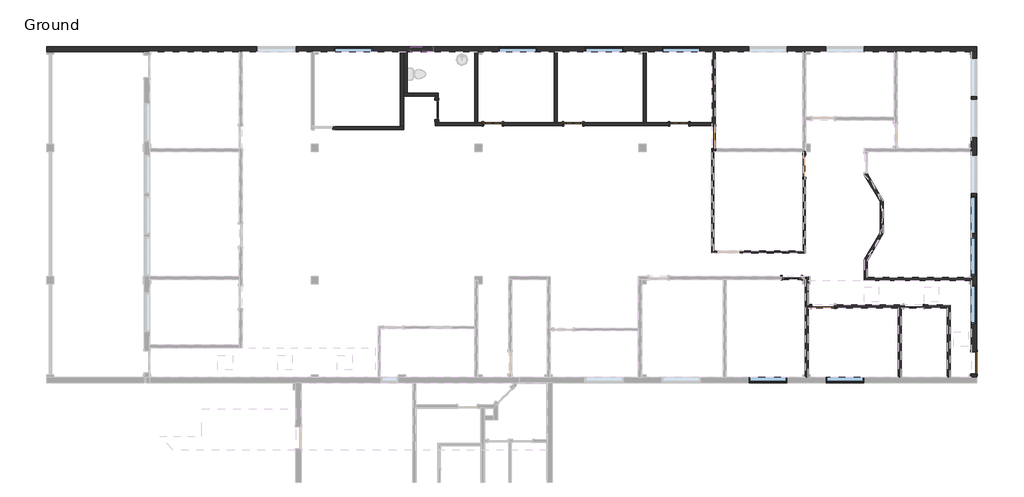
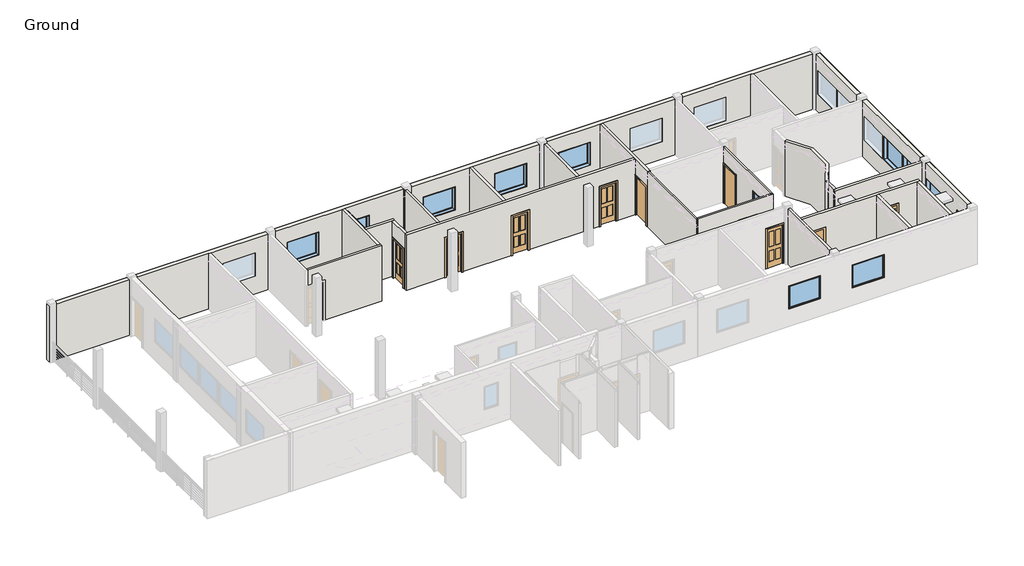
# One storey, part 3 of 4: 22 walls, 12 windows, 10 doors.
"""IFC4 building model written with IfcOpenShell, lengths in millimetres."""

from ifc_helpers import new_model, si_unit, point, frame, frame_2d, origin, origin_with_axes, place, context, project, spatial, polyline, circle_curve, trimmed, segment, composite_curve, outline, extrude, faceted_brep, transform, mapped, element, save
from components import door_43f271b1, door_c0366a91, door_dce19e30, door_bfc1a142, door_dc1c1a0d, door_238e255b, fixed_3_x_3_w3_42a4cb5f, window_74e4fc61, window_a0bf6c86

model = new_model("IFC4")

# Units and contexts
model_context = context("Model", 3, world=origin())
ifc_project = project(units=[si_unit("LENGTHUNIT", "METRE", prefix="MILLI")], contexts=[model_context])

# Site, building, storey
site = spatial("IfcSite", under=ifc_project)
building = spatial("IfcBuilding", under=site)
storey = spatial("IfcBuildingStorey", under=building, Name="Ground", Elevation=0.0)

# Doors
placement = place(None, origin())
door_shape = door_43f271b1(model_context)
element("IfcDoor", 1, ObjectType="Single-Flush : 36\" x 80\" - D1", at=placement, inside=storey, context=model_context, shape_type="MappedRepresentation", body=[
    mapped(door_shape, transform((-16750.902824, 18800.73529, 0.0), x_axis=(0.0, -0.9999999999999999, 0.0), y_axis=(0.9999999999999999, 0.0, 0.0), z_axis=(0.0, 0.0, 1.0))),
])
element("IfcDoor", 2, ObjectType="Single-Flush : 36\" x 80\" - D1", at=placement, inside=storey, context=model_context, shape_type="MappedRepresentation", body=[
    mapped(door_shape, transform((-12274.152824, 11880.82279, 0.0), x_axis=(-0.9999999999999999, 0.0, 0.0), y_axis=(0.0, -0.9999999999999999, 0.0), z_axis=(0.0, 0.0, 1.0))),
])
door_2_shape = door_c0366a91(model_context)
element("IfcDoor", 3, ObjectType="Single-Flush : 36\" x 80\" - D1", at=placement, inside=storey, context=model_context, shape_type="MappedRepresentation", body=[
    mapped(door_2_shape, transform((-13044.090324, 17627.57279, 0.0), x_axis=(0.0, 1.0, 0.0), y_axis=(-1.0, 0.0, 0.0), z_axis=(0.0, 0.0, 1.0))),
])
door_3_shape = door_dce19e30(model_context)
element("IfcDoor", 4, ObjectType="Single-Flush : 36\" x 80\" - D1", at=placement, inside=storey, context=model_context, shape_type="MappedRepresentation", body=[
    mapped(door_3_shape, transform((-6095.602824, 9569.42279, 0.0), x_axis=(0.0, -0.9999999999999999, 0.0), y_axis=(0.9999999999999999, 0.0, 0.0), z_axis=(0.0, 0.0, 1.0))),
])
door_4_shape = door_bfc1a142(model_context)
element("IfcDoor", 5, ObjectType="Single-Glass 3 : 30\" x 80\" - D3", at=placement, inside=storey, context=model_context, shape_type="MappedRepresentation", body=[
    mapped(door_4_shape, transform((-25786.952824, 19354.77279, 0.0), x_axis=(-1.0, 0.0, 0.0), y_axis=(0.0, -1.0, 0.0), z_axis=(0.0, 0.0, 1.0))),
])
element("IfcDoor", 6, ObjectType="Single-Glass 3 : 30\" x 80\" - D3", at=placement, inside=storey, context=model_context, shape_type="MappedRepresentation", body=[
    mapped(door_4_shape, transform((-13556.852824, 13055.57279, 0.0), x_axis=(1.0, 0.0, 0.0), y_axis=(0.0, 1.0, 0.0), z_axis=(0.0, 0.0, 1.0))),
])
element("IfcDoor", 7, ObjectType="Single-Glass 3 : 30\" x 80\" - D3", at=placement, inside=storey, context=model_context, shape_type="MappedRepresentation", body=[
    mapped(door_4_shape, transform((-22497.652824, 19354.77279, 0.0), x_axis=(-1.0, 0.0, 0.0), y_axis=(0.0, -1.0, 0.0), z_axis=(0.0, 0.0, 1.0))),
])
door_5_shape = door_dc1c1a0d(model_context)
element("IfcDoor", 8, ObjectType="Single-Glass 3 : 30\" x 80\" - D3", at=placement, inside=storey, context=model_context, shape_type="MappedRepresentation", body=[
    mapped(door_5_shape, transform((-8567.340324, 11880.82279, 0.0), x_axis=(-0.9999999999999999, 0.0, 0.0), y_axis=(0.0, -0.9999999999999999, 0.0), z_axis=(0.0, 0.0, 1.0))),
])
element("IfcDoor", 9, ObjectType="Single-Glass 3 : 30\" x 80\" - D3", at=placement, inside=storey, context=model_context, shape_type="MappedRepresentation", body=[
    mapped(door_5_shape, transform((-18159.809074, 19354.77279, 0.0), x_axis=(1.0, 0.0, 0.0), y_axis=(0.0, 1.0, 0.0), z_axis=(0.0, 0.0, 1.0))),
])
door_6_shape = door_238e255b(model_context)
element("IfcDoor", 10, ObjectType="Single-Glass 3 : 32\" x 80\" - D2", at=placement, inside=storey, context=model_context, shape_type="MappedRepresentation", body=[
    mapped(door_6_shape, transform((-28079.302824, 19932.62279, 0.0), x_axis=(0.0, -1.0, 0.0), y_axis=(1.0, 0.0, 0.0), z_axis=(0.0, 0.0, 1.0))),
])

# Walls
element("IfcWall", 11, ObjectType="Generic - 6\"", at=placement, inside=storey, context=model_context, shape_type="SweptSolid", body=[
    extrude(outline(polyline([(-29439.790324, 20623.18529), (-29439.790324, 22307.52279), (-29287.390324, 22307.52279), (-29287.390324, 20623.18529), (-29439.790324, 20623.18529)])), origin_with_axes(), (0.0, 0.0, 1.0), 2743.2),
])
element("IfcWall", 12, ObjectType="Generic - 8\" Masonry existing", at=placement, inside=storey, context=model_context, shape_type="Brep", body=[
    faceted_brep([(-44043.202824, 22307.52279, 0.0), (-40037.940324, 22307.52279, 0.0), (-39818.865324, 22307.52279, 0.0), (-36166.027824, 22307.52279, 0.0), (-36042.202824, 22307.52279, 0.0), (-33222.802824, 22307.52279, 0.0), (-33098.977824, 22307.52279, 0.0), (-29563.615324, 22307.52279, 0.0), (-29439.790324, 22307.52279, 0.0), (-29287.390324, 22307.52279, 0.0), (-26517.202824, 22307.52279, 0.0), (-26393.377824, 22307.52279, 0.0), (-23264.415324, 22307.52279, 0.0), (-23140.590324, 22307.52279, 0.0), (-19630.627824, 22307.52279, 0.0), (-19506.802824, 22307.52279, 0.0), (-16812.815324, 22307.52279, 0.0), (-16688.990324, 22307.52279, 0.0), (-13106.002824, 22307.52279, 0.0), (-12982.177824, 22307.52279, 0.0), (-9372.202824, 22307.52279, 0.0), (-9248.377824, 22307.52279, 0.0), (-6205.140324, 22307.52279, 0.0), (-5986.065324, 22307.52279, 0.0), (-5986.065324, 22307.52279, 2895.6), (-5998.765324, 22307.52279, 2895.6), (-6205.140324, 22307.52279, 2895.6), (-9248.377824, 22307.52279, 2895.6), (-9372.202824, 22307.52279, 2895.6), (-12982.177824, 22307.52279, 2895.6), (-13106.002824, 22307.52279, 2895.6), (-16688.990324, 22307.52279, 2895.6), (-16812.815324, 22307.52279, 2895.6), (-19506.802824, 22307.52279, 2895.6), (-19630.627824, 22307.52279, 2895.6), (-23140.590324, 22307.52279, 2895.6), (-23264.415324, 22307.52279, 2895.6), (-26393.377824, 22307.52279, 2895.6), (-26517.202824, 22307.52279, 2895.6), (-29439.790324, 22307.52279, 2895.6), (-29563.615324, 22307.52279, 2895.6), (-33098.977824, 22307.52279, 2895.6), (-33222.802824, 22307.52279, 2895.6), (-36042.202824, 22307.52279, 2895.6), (-36166.027824, 22307.52279, 2895.6), (-44043.202824, 22307.52279, 2895.6), (-28220.590324, 22307.52279, 2133.6), (-28220.590324, 22307.52279, 1219.2), (-29134.990324, 22307.52279, 1219.2), (-29134.990324, 22307.52279, 2133.6), (-17297.002824, 22307.52279, 2133.6), (-17297.002824, 22307.52279, 914.4), (-18871.802824, 22307.52279, 914.4), (-18871.802824, 22307.52279, 2133.6), (-20446.602824, 22307.52279, 2133.6), (-20446.602824, 22307.52279, 914.4), (-22021.402824, 22307.52279, 914.4), (-22021.402824, 22307.52279, 2133.6), (-10591.402824, 22307.52279, 2133.6), (-10591.402824, 22307.52279, 914.4), (-12166.202824, 22307.52279, 914.4), (-12166.202824, 22307.52279, 2133.6), (-13741.002824, 22307.52279, 2133.6), (-13741.002824, 22307.52279, 914.4), (-15315.802824, 22307.52279, 914.4), (-15315.802824, 22307.52279, 2133.6), (-23977.202824, 22307.52279, 2133.6), (-23977.202824, 22307.52279, 914.4), (-25552.002824, 22307.52279, 914.4), (-25552.002824, 22307.52279, 2133.6), (-30708.202824, 22307.52279, 2133.6), (-30708.202824, 22307.52279, 914.4), (-32283.002824, 22307.52279, 914.4), (-32283.002824, 22307.52279, 2133.6), (-33857.802824, 22307.52279, 2133.6), (-33857.802824, 22307.52279, 914.4), (-35432.602824, 22307.52279, 914.4), (-35432.602824, 22307.52279, 2133.6), (-44043.202824, 22526.59779, 0.0), (-44043.202824, 22526.59779, 2895.6), (-5998.765324, 22526.59779, 2895.6), (-5986.065324, 22526.59779, 2895.6), (-5986.065324, 22526.59779, 0.0), (-28220.590324, 22526.59779, 2133.6), (-29134.990324, 22526.59779, 2133.6), (-29134.990324, 22526.59779, 1219.2), (-28220.590324, 22526.59779, 1219.2), (-17297.002824, 22526.59779, 2133.6), (-18871.802824, 22526.59779, 2133.6), (-18871.802824, 22526.59779, 914.4), (-17297.002824, 22526.59779, 914.4), (-20446.602824, 22526.59779, 2133.6), (-22021.402824, 22526.59779, 2133.6), (-22021.402824, 22526.59779, 914.4), (-20446.602824, 22526.59779, 914.4), (-10591.402824, 22526.59779, 2133.6), (-12166.202824, 22526.59779, 2133.6), (-12166.202824, 22526.59779, 914.4), (-10591.402824, 22526.59779, 914.4), (-13741.002824, 22526.59779, 2133.6), (-15315.802824, 22526.59779, 2133.6), (-15315.802824, 22526.59779, 914.4), (-13741.002824, 22526.59779, 914.4), (-23977.202824, 22526.59779, 2133.6), (-25552.002824, 22526.59779, 2133.6), (-25552.002824, 22526.59779, 914.4), (-23977.202824, 22526.59779, 914.4), (-30708.202824, 22526.59779, 2133.6), (-32283.002824, 22526.59779, 2133.6), (-32283.002824, 22526.59779, 914.4), (-30708.202824, 22526.59779, 914.4), (-33857.802824, 22526.59779, 2133.6), (-35432.602824, 22526.59779, 2133.6), (-35432.602824, 22526.59779, 914.4), (-33857.802824, 22526.59779, 914.4), (-44043.202824, 22513.89779, 2895.6), (-5986.065324, 22513.89779, 2895.6), (-5998.765324, 22513.89779, 2895.6)], [[[0, 1, 2, 3, 4, 5, 6, 7, 8, 9, 10, 11, 12, 13, 14, 15, 16, 17, 18, 19, 20, 21, 22, 23, 24, 25, 26, 27, 28, 29, 30, 31, 32, 33, 34, 35, 36, 37, 38, 39, 40, 41, 42, 43, 44, 45], [46, 47, 48, 49], [50, 51, 52, 53], [54, 55, 56, 57], [58, 59, 60, 61], [62, 63, 64, 65], [66, 67, 68, 69], [70, 71, 72, 73], [74, 75, 76, 77]], [[78, 79, 80, 81, 82], [83, 84, 85, 86], [87, 88, 89, 90], [91, 92, 93, 94], [95, 96, 97, 98], [99, 100, 101, 102], [103, 104, 105, 106], [107, 108, 109, 110], [111, 112, 113, 114]], [[23, 22, 21, 20, 19, 18, 17, 16, 15, 14, 13, 12, 11, 10, 9, 8, 7, 6, 5, 4, 3, 2, 1, 0, 78, 82]], [[0, 45, 115, 79, 78]], [[24, 23, 82, 81, 116]], [[25, 24, 116, 117]], [[80, 79, 115, 117]], [[116, 81, 80, 117]], [[45, 44, 43, 42, 41, 40, 39, 38, 37, 36, 35, 34, 33, 32, 31, 30, 29, 28, 27, 26, 25, 117, 115]], [[47, 46, 83, 86]], [[48, 47, 86, 85]], [[49, 48, 85, 84]], [[46, 49, 84, 83]], [[51, 50, 87, 90]], [[52, 51, 90, 89]], [[53, 52, 89, 88]], [[50, 53, 88, 87]], [[55, 54, 91, 94]], [[56, 55, 94, 93]], [[57, 56, 93, 92]], [[54, 57, 92, 91]], [[59, 58, 95, 98]], [[60, 59, 98, 97]], [[61, 60, 97, 96]], [[58, 61, 96, 95]], [[63, 62, 99, 102]], [[64, 63, 102, 101]], [[65, 64, 101, 100]], [[62, 65, 100, 99]], [[67, 66, 103, 106]], [[68, 67, 106, 105]], [[69, 68, 105, 104]], [[66, 69, 104, 103]], [[71, 70, 107, 110]], [[72, 71, 110, 109]], [[73, 72, 109, 108]], [[70, 73, 108, 107]], [[75, 74, 111, 114]], [[76, 75, 114, 113]], [[77, 76, 113, 112]], [[74, 77, 112, 111]]]),
])
element("IfcWall", 13, ObjectType="Generic - 8\" Masonry existing", at=placement, inside=storey, context=model_context, shape_type="Brep", body=[
    faceted_brep([(-5986.065324, 8972.52279, 0.0), (-5986.065324, 9112.22279, 0.0), (-5986.065324, 9112.22279, 2032.0), (-5986.065324, 10026.62279, 2032.0), (-5986.065324, 10026.62279, 0.0), (-5986.065324, 22307.52279, 0.0), (-5986.065324, 22307.52279, 2895.6), (-5986.065324, 8972.52279, 2895.6), (-5986.065324, 11169.62279, 2133.6), (-5986.065324, 12744.42279, 2133.6), (-5986.065324, 12744.42279, 914.4), (-5986.065324, 11169.62279, 914.4), (-5986.065324, 13150.82279, 2133.6), (-5986.065324, 14725.62279, 2133.6), (-5986.065324, 14725.62279, 914.4), (-5986.065324, 13150.82279, 914.4), (-5986.065324, 14827.22279, 2133.6), (-5986.065324, 16402.02279, 2133.6), (-5986.065324, 16402.02279, 914.4), (-5986.065324, 14827.22279, 914.4), (-5986.065324, 16503.62279, 2133.6), (-5986.065324, 18078.42279, 2133.6), (-5986.065324, 18078.42279, 914.4), (-5986.065324, 16503.62279, 914.4), (-5986.065324, 18789.62279, 2133.6), (-5986.065324, 20364.42279, 2133.6), (-5986.065324, 20364.42279, 914.4), (-5986.065324, 18789.62279, 914.4), (-5986.065324, 20466.02279, 2133.6), (-5986.065324, 22040.82279, 2133.6), (-5986.065324, 22040.82279, 914.4), (-5986.065324, 20466.02279, 914.4), (-6205.140324, 9112.22279, 2032.0), (-6205.140324, 9112.22279, 0.0), (-6205.140324, 8972.52279, 0.0), (-6205.140324, 8972.52279, 2895.6), (-6205.140324, 12949.21029, 2895.6), (-6205.140324, 13073.03529, 2895.6), (-6205.140324, 18219.71029, 2895.6), (-6205.140324, 18343.53529, 2895.6), (-6205.140324, 22307.52279, 2895.6), (-6205.140324, 22307.52279, 0.0), (-6205.140324, 18343.53529, 0.0), (-6205.140324, 18219.71029, 0.0), (-6205.140324, 13073.03529, 0.0), (-6205.140324, 12949.21029, 0.0), (-6205.140324, 10026.62279, 0.0), (-6205.140324, 10026.62279, 2032.0), (-6205.140324, 11169.62279, 2133.6), (-6205.140324, 11169.62279, 914.4), (-6205.140324, 12744.42279, 914.4), (-6205.140324, 12744.42279, 2133.6), (-6205.140324, 13150.82279, 2133.6), (-6205.140324, 13150.82279, 914.4), (-6205.140324, 14725.62279, 914.4), (-6205.140324, 14725.62279, 2133.6), (-6205.140324, 14827.22279, 2133.6), (-6205.140324, 14827.22279, 914.4), (-6205.140324, 16402.02279, 914.4), (-6205.140324, 16402.02279, 2133.6), (-6205.140324, 16503.62279, 2133.6), (-6205.140324, 16503.62279, 914.4), (-6205.140324, 18078.42279, 914.4), (-6205.140324, 18078.42279, 2133.6), (-6205.140324, 18789.62279, 2133.6), (-6205.140324, 18789.62279, 914.4), (-6205.140324, 20364.42279, 914.4), (-6205.140324, 20364.42279, 2133.6), (-6205.140324, 20466.02279, 2133.6), (-6205.140324, 20466.02279, 914.4), (-6205.140324, 22040.82279, 914.4), (-6205.140324, 22040.82279, 2133.6), (-5998.765324, 22307.52279, 2895.6), (-5998.765324, 8972.52279, 2895.6)], [[[0, 1, 2, 3, 4, 5, 6, 7], [8, 9, 10, 11], [12, 13, 14, 15], [16, 17, 18, 19], [20, 21, 22, 23], [24, 25, 26, 27], [28, 29, 30, 31]], [[32, 33, 34, 35, 36, 37, 38, 39, 40, 41, 42, 43, 44, 45, 46, 47], [48, 49, 50, 51], [52, 53, 54, 55], [56, 57, 58, 59], [60, 61, 62, 63], [64, 65, 66, 67], [68, 69, 70, 71]], [[34, 33, 1, 0]], [[46, 45, 44, 43, 42, 41, 5, 4]], [[6, 5, 41, 40, 72]], [[0, 7, 73, 35, 34]], [[7, 6, 72, 73]], [[72, 40, 39, 38, 37, 36, 35, 73]], [[2, 1, 33, 32]], [[3, 2, 32, 47]], [[4, 3, 47, 46]], [[49, 48, 8, 11]], [[50, 49, 11, 10]], [[51, 50, 10, 9]], [[48, 51, 9, 8]], [[53, 52, 12, 15]], [[54, 53, 15, 14]], [[55, 54, 14, 13]], [[52, 55, 13, 12]], [[57, 56, 16, 19]], [[58, 57, 19, 18]], [[59, 58, 18, 17]], [[56, 59, 17, 16]], [[61, 60, 20, 23]], [[62, 61, 23, 22]], [[63, 62, 22, 21]], [[60, 63, 21, 20]], [[65, 64, 24, 27]], [[66, 65, 27, 26]], [[67, 66, 26, 25]], [[64, 67, 25, 24]], [[69, 68, 28, 31]], [[70, 69, 31, 30]], [[71, 70, 30, 29]], [[68, 71, 29, 28]]]),
])
element("IfcWall", 14, ObjectType="Interior - 3 1/8\" Partition (1-hr)", at=placement, inside=storey, context=model_context, shape_type="Brep", body=[
    faceted_brep([(-16820.752824, 18219.71029, 0.0), (-16820.752824, 14071.57279, 0.0), (-16820.752824, 14071.57279, 2895.6), (-16820.752824, 18219.71029, 2895.6), (-16741.377824, 18219.71029, 0.0), (-16741.377824, 18219.71029, 2895.6), (-16741.377824, 14150.94779, 2895.6), (-16741.377824, 14071.57279, 2895.6), (-16741.377824, 14071.57279, 0.0), (-16741.377824, 14150.94779, 0.0), (-16812.815324, 18219.71029, 0.0), (-16812.815324, 18219.71029, 2895.6)], [[[0, 1, 2, 3]], [[4, 5, 6, 7, 8, 9]], [[1, 0, 10, 4, 9, 8]], [[3, 2, 7, 6, 5, 11]], [[2, 1, 8, 7]], [[0, 3, 11, 5, 4, 10]]]),
])
element("IfcWall", 15, ObjectType="Interior - 3 1/8\" Partition (1-hr)", at=placement, inside=storey, context=model_context, shape_type="Brep", body=[
    faceted_brep([(-16741.377824, 14071.57279, 0.0), (-16598.502824, 14071.57279, 0.0), (-16598.502824, 14071.57279, 2032.0), (-15684.102824, 14071.57279, 2032.0), (-15684.102824, 14071.57279, 0.0), (-13004.402824, 14071.57279, 0.0), (-13004.402824, 14071.57279, 2895.6), (-16741.377824, 14071.57279, 2895.6), (-14720.490324, 14071.57279, 2133.6), (-13806.090324, 14071.57279, 2133.6), (-13806.090324, 14071.57279, 914.4), (-14720.490324, 14071.57279, 914.4), (-16598.502824, 14150.94779, 2032.0), (-16598.502824, 14150.94779, 0.0), (-16741.377824, 14150.94779, 0.0), (-16741.377824, 14150.94779, 2895.6), (-13083.777824, 14150.94779, 2895.6), (-13004.402824, 14150.94779, 2895.6), (-13004.402824, 14150.94779, 0.0), (-13083.777824, 14150.94779, 0.0), (-15684.102824, 14150.94779, 0.0), (-15684.102824, 14150.94779, 2032.0), (-14720.490324, 14150.94779, 2133.6), (-14720.490324, 14150.94779, 914.4), (-13806.090324, 14150.94779, 914.4), (-13806.090324, 14150.94779, 2133.6)], [[[0, 1, 2, 3, 4, 5, 6, 7], [8, 9, 10, 11]], [[12, 13, 14, 15, 16, 17, 18, 19, 20, 21], [22, 23, 24, 25]], [[14, 13, 1, 0]], [[20, 19, 18, 5, 4]], [[7, 6, 17, 16, 15]], [[6, 5, 18, 17]], [[0, 7, 15, 14]], [[2, 1, 13, 12]], [[3, 2, 12, 21]], [[4, 3, 21, 20]], [[23, 22, 8, 11]], [[24, 23, 11, 10]], [[25, 24, 10, 9]], [[22, 25, 9, 8]]]),
])
element("IfcWall", 16, ObjectType="Interior - 3 1/8\" Partition (1-hr)", at=placement, inside=storey, context=model_context, shape_type="SweptSolid", body=[
    extrude(outline(polyline([(18219.71029, 0.0), (18084.77279, 0.0), (18084.77279, 2032.0), (17170.37279, 2032.0), (17170.37279, 0.0), (14150.94779, 0.0), (14150.94779, 2895.6), (18219.71029, 2895.6), (18219.71029, 0.0)]), holes=[polyline([(14760.54779, 2133.6), (14760.54779, 914.4), (15674.94779, 914.4), (15674.94779, 2133.6), (14760.54779, 2133.6)])]), frame((-13083.777824, 0.0, 0.0), z_axis=(1.0, 0.0, 0.0), x_axis=(0.0, 1.0, 0.0)), (0.0, 0.0, 1.0), 79.375),
])
element("IfcWall", 17, ObjectType="Interior - 5 1/2\" Partition (1-hr)", at=placement, inside=storey, context=model_context, shape_type="Brep", body=[
    faceted_brep([(-6205.140324, 13073.03529, 0.0), (-10467.577824, 13073.03529, 0.0), (-10591.402824, 13073.03529, 0.0), (-10591.402824, 13073.03529, 2895.6), (-10467.577824, 13073.03529, 2895.6), (-6205.140324, 13073.03529, 2895.6), (-6205.140324, 12949.21029, 0.0), (-6205.140324, 12949.21029, 2895.6), (-10591.402824, 12949.21029, 2895.6), (-10591.402824, 12949.21029, 0.0)], [[[0, 1, 2, 3, 4, 5]], [[6, 7, 8, 9]], [[2, 1, 0, 6, 9]], [[5, 4, 3, 8, 7]], [[3, 2, 9, 8]], [[0, 5, 7, 6]]]),
])
element("IfcWall", 18, ObjectType="Interior - 5 1/2\" Partition (1-hr)", at=placement, inside=storey, context=model_context, shape_type="Brep", body=[
    faceted_brep([(-16688.990324, 18219.71029, 0.0), (-16688.990324, 18343.53529, 0.0), (-16688.990324, 18343.53529, 2032.0), (-16688.990324, 19257.93529, 2032.0), (-16688.990324, 19257.93529, 0.0), (-16688.990324, 22307.52279, 0.0), (-16688.990324, 22307.52279, 2895.6), (-16688.990324, 18343.53529, 2895.6), (-16688.990324, 18219.71029, 2895.6), (-16812.815324, 18343.53529, 2032.0), (-16812.815324, 18343.53529, 0.0), (-16812.815324, 18219.71029, 0.0), (-16812.815324, 18219.71029, 2895.6), (-16812.815324, 19292.86029, 2895.6), (-16812.815324, 19416.68529, 2895.6), (-16812.815324, 22307.52279, 2895.6), (-16812.815324, 22307.52279, 0.0), (-16812.815324, 19416.68529, 0.0), (-16812.815324, 19292.86029, 0.0), (-16812.815324, 19257.93529, 0.0), (-16812.815324, 19257.93529, 2032.0), (-16741.377824, 18219.71029, 0.0), (-16741.377824, 18219.71029, 2895.6)], [[[0, 1, 2, 3, 4, 5, 6, 7, 8]], [[9, 10, 11, 12, 13, 14, 15, 16, 17, 18, 19, 20]], [[11, 10, 1, 0, 21]], [[19, 18, 17, 16, 5, 4]], [[8, 7, 6, 15, 14, 13, 12, 22]], [[0, 8, 22, 12, 11, 21]], [[6, 5, 16, 15]], [[2, 1, 10, 9]], [[3, 2, 9, 20]], [[4, 3, 20, 19]]]),
])
element("IfcWall", 19, ObjectType="Interior - 5 1/2\" Partition (1-hr)", at=placement, inside=storey, context=model_context, shape_type="SweptSolid", body=[
    extrude(outline(composite_curve([segment(polyline([(-10467.577824, 13753.2813276), (-10591.402824, 13806.060194)]), True, "CONTINUOUS"), segment(trimmed(circle_curve(frame_2d((-12218.244142, 15538.42279)), 2376.4875), [point((-10591.402824, 13806.060194))], [point((-10591.402824, 17270.785386))], True, "CARTESIAN"), True, "CONTINUOUS"), segment(polyline([(-10591.402824, 17270.785386), (-10467.577824, 17323.5642525)]), True, "CONTINUOUS"), segment(trimmed(circle_curve(frame_2d((-12218.244142, 15538.42279)), 2500.3125), [point((-10467.577824, 17323.5642525))], [point((-10467.577824, 13753.2813276))], False, "CARTESIAN"), True, "CONTINUOUS")], self_intersect=False)), origin_with_axes(), (0.0, 0.0, 1.0), 2895.6),
])
element("IfcWall", 20, ObjectType="Interior - 5 1/2\" Partition (1-hr)", at=placement, inside=storey, context=model_context, shape_type="SweptSolid", body=[
    extrude(outline(polyline([(-10591.402824, 13073.03529), (-10591.402824, 13806.060194), (-10467.577824, 13753.2813276), (-10467.577824, 13073.03529), (-10591.402824, 13073.03529)])), origin_with_axes(), (0.0, 0.0, 1.0), 2895.6),
])
element("IfcWall", 21, ObjectType="Interior - 5 1/2\" Partition (1-hr)", at=placement, inside=storey, context=model_context, shape_type="Brep", body=[
    faceted_brep([(-12891.690324, 8972.52279, 0.0), (-12891.690324, 11818.91029, 0.0), (-12891.690324, 11942.73529, 0.0), (-12891.690324, 13117.48529, 0.0), (-12891.690324, 13117.48529, 2895.6), (-12891.690324, 11942.73529, 2895.6), (-12891.690324, 11818.91029, 2895.6), (-12891.690324, 8972.52279, 2895.6), (-13015.515324, 8972.52279, 0.0), (-13015.515324, 8972.52279, 2895.6), (-13015.515324, 12993.66029, 2895.6), (-13015.515324, 13117.48529, 2895.6), (-13015.515324, 13117.48529, 0.0), (-13015.515324, 12993.66029, 0.0)], [[[0, 1, 2, 3, 4, 5, 6, 7]], [[8, 9, 10, 11, 12, 13]], [[3, 2, 1, 0, 8, 13, 12]], [[7, 6, 5, 4, 11, 10, 9]], [[4, 3, 12, 11]], [[0, 7, 9, 8]]]),
])
element("IfcWall", 22, ObjectType="Interior - 5 1/2\" Partition (1-hr)", at=placement, inside=storey, context=model_context, shape_type="Brep", body=[
    faceted_brep([(-29439.790324, 19118.23529, 2895.6), (-33098.977824, 19118.23529, 2895.6), (-33098.977824, 19118.23529, 2032.0), (-32336.8538075, 19118.23529, 2032.0), (-32336.8538075, 19118.23529, 0.0), (-29439.790324, 19118.23529, 0.0), (-33098.977824, 19242.06029, 2895.6), (-29563.615324, 19242.06029, 2895.6), (-29439.790324, 19242.06029, 2895.6), (-29439.790324, 19242.06029, 0.0), (-29563.615324, 19242.06029, 0.0), (-32336.8538075, 19242.06029, 0.0), (-32336.8538075, 19242.06029, 2032.0), (-33098.977824, 19242.06029, 2032.0)], [[[0, 1, 2, 3, 4, 5]], [[6, 7, 8, 9, 10, 11, 12, 13]], [[9, 5, 4, 11, 10]], [[1, 0, 8, 7, 6]], [[0, 5, 9, 8]], [[1, 6, 13, 2]], [[12, 3, 2, 13]], [[3, 12, 11, 4]]]),
])
element("IfcWall", 23, ObjectType="Interior - 5 1/2\" Partition (1-hr)", at=placement, inside=storey, context=model_context, shape_type="Brep", body=[
    faceted_brep([(-29439.790324, 19242.06029, 0.0), (-29439.790324, 20499.36029, 0.0), (-29439.790324, 20623.18529, 0.0), (-29439.790324, 22307.52279, 0.0), (-29439.790324, 22307.52279, 2895.6), (-29439.790324, 20623.18529, 2895.6), (-29439.790324, 20499.36029, 2895.6), (-29439.790324, 19242.06029, 2895.6), (-29563.615324, 19242.06029, 0.0), (-29563.615324, 19242.06029, 2895.6), (-29563.615324, 22307.52279, 2895.6), (-29563.615324, 22307.52279, 0.0)], [[[0, 1, 2, 3, 4, 5, 6, 7]], [[8, 9, 10, 11]], [[3, 2, 1, 0, 8, 11]], [[7, 6, 5, 4, 10, 9]], [[4, 3, 11, 10]], [[0, 7, 9, 8]]]),
])
element("IfcWall", 24, ObjectType="Interior - 5 1/2\" Partition (1-hr)", at=placement, inside=storey, context=model_context, shape_type="SweptSolid", body=[
    extrude(outline(polyline([(-26517.202824, 19416.68529), (-26517.202824, 22307.52279), (-26393.377824, 22307.52279), (-26393.377824, 19416.68529), (-26517.202824, 19416.68529)])), origin_with_axes(), (0.0, 0.0, 1.0), 2895.6),
])
element("IfcWall", 25, ObjectType="Interior - 5 1/2\" Partition (1-hr)", at=placement, inside=storey, context=model_context, shape_type="SweptSolid", body=[
    extrude(outline(polyline([(-23140.590324, 22307.52279), (-23140.590324, 19416.68529), (-23264.415324, 19416.68529), (-23264.415324, 22307.52279), (-23140.590324, 22307.52279)])), origin_with_axes(), (0.0, 0.0, 1.0), 2895.6),
])
element("IfcWall", 26, ObjectType="Interior - 5 1/2\" Partition (1-hr)", at=placement, inside=storey, context=model_context, shape_type="Brep", body=[
    faceted_brep([(-8948.2163075, 11942.73529, 2032.0), (-8948.2163075, 11942.73529, 0.0), (-11816.952824, 11942.73529, 0.0), (-11816.952824, 11942.73529, 2032.0), (-12731.352824, 11942.73529, 2032.0), (-12731.352824, 11942.73529, 0.0), (-12891.690324, 11942.73529, 0.0), (-12891.690324, 11942.73529, 2895.6), (-7071.915324, 11942.73529, 2895.6), (-7071.915324, 11942.73529, 0.0), (-8186.2163075, 11942.73529, 0.0), (-8186.2163075, 11942.73529, 2032.0), (-11816.952824, 11818.91029, 0.0), (-9207.102824, 11818.91029, 0.0), (-9083.277824, 11818.91029, 0.0), (-8948.2163075, 11818.91029, 0.0), (-8948.2163075, 11818.91029, 2032.0), (-8186.2163075, 11818.91029, 2032.0), (-8186.2163075, 11818.91029, 0.0), (-7195.740324, 11818.91029, 0.0), (-7071.915324, 11818.91029, 0.0), (-7071.915324, 11818.91029, 2895.6), (-7195.740324, 11818.91029, 2895.6), (-9083.277824, 11818.91029, 2895.6), (-9207.102824, 11818.91029, 2895.6), (-12891.690324, 11818.91029, 2895.6), (-12891.690324, 11818.91029, 0.0), (-12731.352824, 11818.91029, 0.0), (-12731.352824, 11818.91029, 2032.0), (-11816.952824, 11818.91029, 2032.0)], [[[0, 1, 2, 3, 4, 5, 6, 7, 8, 9, 10, 11]], [[12, 13, 14, 15, 16, 17, 18, 19, 20, 21, 22, 23, 24, 25, 26, 27, 28, 29]], [[6, 5, 27, 26]], [[2, 1, 15, 14, 13, 12]], [[10, 9, 20, 19, 18]], [[8, 7, 25, 24, 23, 22, 21]], [[9, 8, 21, 20]], [[7, 6, 26, 25]], [[28, 27, 5, 4]], [[29, 28, 4, 3]], [[12, 29, 3, 2]], [[16, 15, 1, 0]], [[17, 16, 0, 11]], [[18, 17, 11, 10]]]),
])
element("IfcWall", 27, ObjectType="Interior - 5 1/2\" Partition (1-hr)", at=placement, inside=storey, context=model_context, shape_type="SweptSolid", body=[
    extrude(outline(polyline([(-19630.627824, 19416.68529), (-19630.627824, 22307.52279), (-19506.802824, 22307.52279), (-19506.802824, 19416.68529), (-19630.627824, 19416.68529)])), origin_with_axes(), (0.0, 0.0, 1.0), 2895.6),
])
element("IfcWall", 28, ObjectType="Interior - 5 1/2\" Partition (1-hr)", at=placement, inside=storey, context=model_context, shape_type="Brep", body=[
    faceted_brep([(-29439.790324, 20499.36029, 0.0), (-28141.215324, 20499.36029, 0.0), (-28017.390324, 20499.36029, 0.0), (-28017.390324, 20499.36029, 2895.6), (-28141.215324, 20499.36029, 2895.6), (-29439.790324, 20499.36029, 2895.6), (-29439.790324, 20623.18529, 0.0), (-29439.790324, 20623.18529, 2743.2), (-29439.790324, 20623.18529, 2895.6), (-28017.390324, 20623.18529, 2895.6), (-28017.390324, 20623.18529, 0.0), (-29287.390324, 20623.18529, 0.0)], [[[0, 1, 2, 3, 4, 5]], [[6, 7, 8, 9, 10, 11]], [[2, 1, 0, 6, 11, 10]], [[5, 4, 3, 9, 8]], [[3, 2, 10, 9]], [[0, 5, 8, 7, 6]]]),
])
element("IfcWall", 29, ObjectType="Interior - 5 1/2\" Partition (1-hr)", at=placement, inside=storey, context=model_context, shape_type="SweptSolid", body=[
    extrude(outline(polyline([(19416.68529, 2895.6), (20499.36029, 2895.6), (20499.36029, 0.0), (20339.1468066, 0.0), (20339.1468066, 2032.0), (19526.3468066, 2032.0), (19526.3468066, 0.0), (19416.68529, 0.0), (19416.68529, 2895.6)])), frame((-28141.215324, 0.0, 0.0), z_axis=(1.0, 0.0, 0.0), x_axis=(0.0, 1.0, 0.0)), (0.0, 0.0, 1.0), 123.825),
])
element("IfcWall", 30, ObjectType="Interior - 5 1/2\" Partition (1-hr)", at=placement, inside=storey, context=model_context, shape_type="Brep", body=[
    faceted_brep([(-17778.9330906, 19292.86029, 2032.0), (-17778.9330906, 19292.86029, 0.0), (-16812.815324, 19292.86029, 0.0), (-16812.815324, 19292.86029, 2895.6), (-28141.215324, 19292.86029, 2895.6), (-28141.215324, 19292.86029, 0.0), (-26167.8288075, 19292.86029, 0.0), (-26167.8288075, 19292.86029, 2032.0), (-25405.8288075, 19292.86029, 2032.0), (-25405.8288075, 19292.86029, 0.0), (-22878.5288075, 19292.86029, 0.0), (-22878.5288075, 19292.86029, 2032.0), (-22116.5288075, 19292.86029, 2032.0), (-22116.5288075, 19292.86029, 0.0), (-18540.9330906, 19292.86029, 0.0), (-18540.9330906, 19292.86029, 2032.0), (-16812.815324, 19416.68529, 0.0), (-17778.9330906, 19416.68529, 0.0), (-17778.9330906, 19416.68529, 2032.0), (-18540.9330906, 19416.68529, 2032.0), (-18540.9330906, 19416.68529, 0.0), (-19506.802824, 19416.68529, 0.0), (-19630.627824, 19416.68529, 0.0), (-22116.5288075, 19416.68529, 0.0), (-22116.5288075, 19416.68529, 2032.0), (-22878.5288075, 19416.68529, 2032.0), (-22878.5288075, 19416.68529, 0.0), (-23140.590324, 19416.68529, 0.0), (-23264.415324, 19416.68529, 0.0), (-25405.8288075, 19416.68529, 0.0), (-25405.8288075, 19416.68529, 2032.0), (-26167.8288075, 19416.68529, 2032.0), (-26167.8288075, 19416.68529, 0.0), (-26393.377824, 19416.68529, 0.0), (-26517.202824, 19416.68529, 0.0), (-28017.390324, 19416.68529, 0.0), (-28141.215324, 19416.68529, 0.0), (-28141.215324, 19416.68529, 2895.6), (-28017.390324, 19416.68529, 2895.6), (-26517.202824, 19416.68529, 2895.6), (-26393.377824, 19416.68529, 2895.6), (-23264.415324, 19416.68529, 2895.6), (-23140.590324, 19416.68529, 2895.6), (-19630.627824, 19416.68529, 2895.6), (-19506.802824, 19416.68529, 2895.6), (-16812.815324, 19416.68529, 2895.6)], [[[0, 1, 2, 3, 4, 5, 6, 7, 8, 9, 10, 11, 12, 13, 14, 15]], [[16, 17, 18, 19, 20, 21, 22, 23, 24, 25, 26, 27, 28, 29, 30, 31, 32, 33, 34, 35, 36, 37, 38, 39, 40, 41, 42, 43, 44, 45]], [[36, 35, 34, 33, 32, 6, 5]], [[29, 28, 27, 26, 10, 9]], [[2, 1, 17, 16]], [[14, 13, 23, 22, 21, 20]], [[4, 3, 45, 44, 43, 42, 41, 40, 39, 38, 37]], [[5, 4, 37, 36]], [[3, 2, 16, 45]], [[7, 6, 32, 31]], [[8, 7, 31, 30]], [[9, 8, 30, 29]], [[11, 10, 26, 25]], [[12, 11, 25, 24]], [[13, 12, 24, 23]], [[18, 17, 1, 0]], [[19, 18, 0, 15]], [[20, 19, 15, 14]]]),
])
element("IfcWall", 31, ObjectType="Interior - 5 1/2\" Partition (1-hr)", at=placement, inside=storey, context=model_context, shape_type="SweptSolid", body=[
    extrude(outline(polyline([(-9207.102824, 8972.52279), (-9207.102824, 11818.91029), (-9083.277824, 11818.91029), (-9083.277824, 8972.52279), (-9207.102824, 8972.52279)])), origin_with_axes(), (0.0, 0.0, 1.0), 2895.6),
])
element("IfcWall", 32, ObjectType="Interior - 5 1/2\" Partition (1-hr)", at=placement, inside=storey, context=model_context, shape_type="SweptSolid", body=[
    extrude(outline(polyline([(-7195.740324, 8972.52279), (-7195.740324, 11818.91029), (-7071.915324, 11818.91029), (-7071.915324, 8972.52279), (-7195.740324, 8972.52279)])), origin_with_axes(), (0.0, 0.0, 1.0), 2895.6),
])

# Windows
fixed_3_x_3_w3_shape = fixed_3_x_3_w3_42a4cb5f(model_context)
element("IfcWindow", 33, ObjectType="Fixed : 3'x 3' - W3", at=placement, inside=storey, context=model_context, shape_type="MappedRepresentation", body=[
    mapped(fixed_3_x_3_w3_shape, transform((-28639.690324, 22417.06029, -304.8), x_axis=(1.0, 0.0, 0.0), y_axis=(0.0, 1.0, 0.0), z_axis=(0.0, 0.0, 1.0))),
])
window_shape = window_74e4fc61(model_context)
element("IfcWindow", 34, ObjectType="Fixed : 36\" x 48\" - W2", at=placement, inside=storey, context=model_context, shape_type="MappedRepresentation", body=[
    mapped(window_shape, transform((-14301.390324, 14111.26029, 0.0), x_axis=(-0.9999999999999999, 0.0, 0.0), y_axis=(0.0, -0.9999999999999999, 0.0), z_axis=(0.0, 0.0, 1.0))),
])
element("IfcWindow", 35, ObjectType="Fixed : 36\" x 48\" - W2", at=placement, inside=storey, context=model_context, shape_type="MappedRepresentation", body=[
    mapped(window_shape, transform((-13044.090324, 15179.64779, 0.0), x_axis=(0.0, -1.0, 0.0), y_axis=(1.0, 0.0, 0.0), z_axis=(0.0, 0.0, 1.0))),
])
window_2_shape = window_a0bf6c86(model_context)
element("IfcWindow", 36, ObjectType="Fixed : 60\" x 48\" - W1", at=placement, inside=storey, context=model_context, shape_type="MappedRepresentation", body=[
    mapped(window_2_shape, transform((-31457.502824, 22417.06029, 0.0), x_axis=(1.0, 0.0, 0.0), y_axis=(0.0, 1.0, 0.0), z_axis=(0.0, 0.0, 1.0))),
])
element("IfcWindow", 37, ObjectType="Fixed : 60\" x 48\" - W1", at=placement, inside=storey, context=model_context, shape_type="MappedRepresentation", body=[
    mapped(window_2_shape, transform((-24726.502824, 22417.06029, 0.0), x_axis=(1.0, 0.0, 0.0), y_axis=(0.0, 1.0, 0.0), z_axis=(0.0, 0.0, 1.0))),
])
element("IfcWindow", 38, ObjectType="Fixed : 60\" x 48\" - W1", at=placement, inside=storey, context=model_context, shape_type="MappedRepresentation", body=[
    mapped(window_2_shape, transform((-21195.902824, 22417.06029, 0.0), x_axis=(1.0, 0.0, 0.0), y_axis=(0.0, 1.0, 0.0), z_axis=(0.0, 0.0, 1.0))),
])
element("IfcWindow", 39, ObjectType="Fixed : 60\" x 48\" - W1", at=placement, inside=storey, context=model_context, shape_type="MappedRepresentation", body=[
    mapped(window_2_shape, transform((-14566.502824, 8862.98529, 0.0), x_axis=(-1.0, 0.0, 0.0), y_axis=(0.0, -1.0, 0.0), z_axis=(0.0, 0.0, 1.0))),
])
element("IfcWindow", 40, ObjectType="Fixed : 60\" x 48\" - W1", at=placement, inside=storey, context=model_context, shape_type="MappedRepresentation", body=[
    mapped(window_2_shape, transform((-11416.902824, 8862.98529, 0.0), x_axis=(-1.0, 0.0, 0.0), y_axis=(0.0, -1.0, 0.0), z_axis=(0.0, 0.0, 1.0))),
])
element("IfcWindow", 41, ObjectType="Fixed : 60\" x 48\" - W1", at=placement, inside=storey, context=model_context, shape_type="MappedRepresentation", body=[
    mapped(window_2_shape, transform((-6095.602824, 15576.52279, 0.0), x_axis=(0.0, -0.9999999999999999, 0.0), y_axis=(0.9999999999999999, 0.0, 0.0), z_axis=(0.0, 0.0, 1.0))),
])
element("IfcWindow", 42, ObjectType="Fixed : 60\" x 48\" - W1", at=placement, inside=storey, context=model_context, shape_type="MappedRepresentation", body=[
    mapped(window_2_shape, transform((-6095.602824, 13900.12279, 0.0), x_axis=(0.0, -0.9999999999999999, 0.0), y_axis=(0.9999999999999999, 0.0, 0.0), z_axis=(0.0, 0.0, 1.0))),
])
element("IfcWindow", 43, ObjectType="Fixed : 60\" x 48\" - W1", at=placement, inside=storey, context=model_context, shape_type="MappedRepresentation", body=[
    mapped(window_2_shape, transform((-6095.602824, 11918.92279, 0.0), x_axis=(0.0, -0.9999999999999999, 0.0), y_axis=(0.9999999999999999, 0.0, 0.0), z_axis=(0.0, 0.0, 1.0))),
])
element("IfcWindow", 44, ObjectType="Fixed : 60\" x 48\" - W1", at=placement, inside=storey, context=model_context, shape_type="MappedRepresentation", body=[
    mapped(window_2_shape, transform((-18046.302824, 22417.06029, 0.0), x_axis=(1.0, 0.0, 0.0), y_axis=(0.0, 1.0, 0.0), z_axis=(0.0, 0.0, 1.0))),
])

save(model, "model.ifc")
